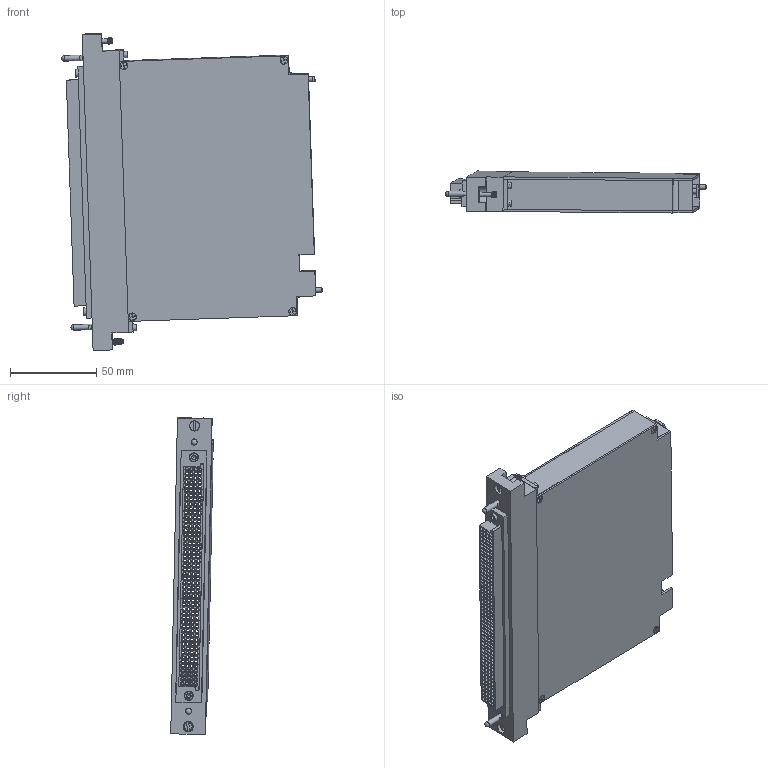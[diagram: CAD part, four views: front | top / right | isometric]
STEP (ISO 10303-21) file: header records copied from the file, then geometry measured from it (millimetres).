
FILE_DESCRIPTION((''),'2;1');
FILE_NAME('C:\old_Drawings\shrinkwrapped website .stp files\561085-STP.stp','2011-08-15T09:44:05',('GaryRobinson'),(''),'Autodesk Inventor 2011','Autodesk Inventor 2011','');
FILE_SCHEMA(('AUTOMOTIVE_DESIGN { 1 0 10303 214 1 1 1 1 }'));
Length unit declared in the file: inch
Products named in the file (1): DAK with 200 HDI-STP
Bounding box: 151.17 x 24.67 x 183.92 mm (x, y, z)
Surface area: 134433.8 mm2 (no closed solid volume)
Topology: 0 solids, 27 shells, 1741 faces, 4200 edges, 2776 vertices
Faces by surface type: plane 957, cylinder 533, bspline 172, cone 76, sphere 2, torus 1
Full cylindrical faces by diameter (mm): 1.778 x200, 2.184 x22, 2.286 x200, 2.438 x14, 2.5 x1, 2.54 x3, 2.731 x1, 2.845 x3, 2.946 x4, 2.997 x1, 3.099 x2, 3.175 x2, 3.302 x2, 3.556 x4, 3.734 x1, 3.81 x2, 4.5 x1, 4.572 x1, 4.648 x2, 4.763 x2, 4.851 x1, 5.207 x2, 5.537 x2, 5.953 x2
Entity records: 52502 total; most frequent: CARTESIAN_POINT 13216, DIRECTION 7265, ORIENTED_EDGE 6814, EDGE_CURVE 3407, EDGE_LOOP 3003, AXIS2_PLACEMENT_3D 2745, VERTEX_POINT 2524, VECTOR 1775
